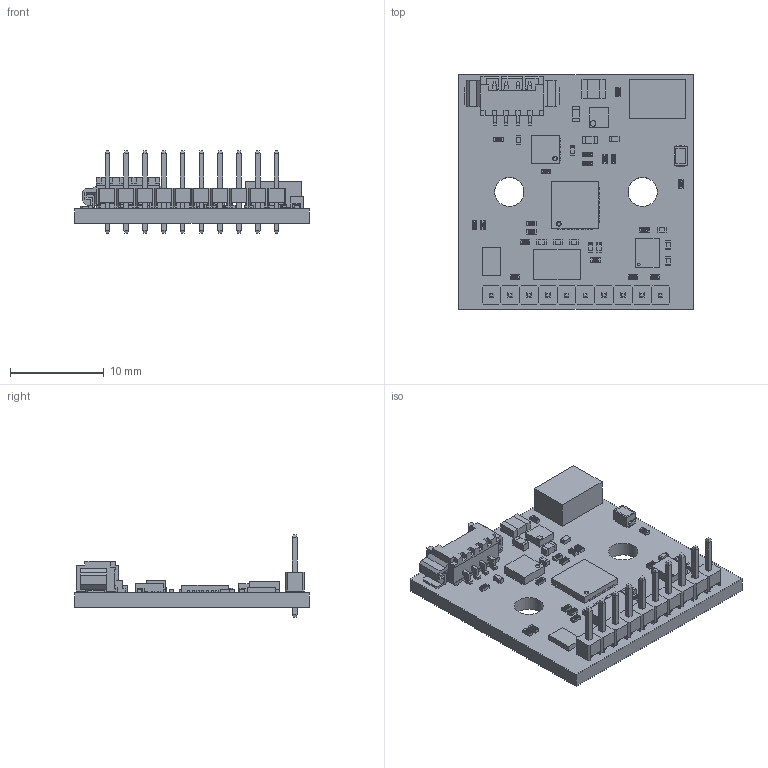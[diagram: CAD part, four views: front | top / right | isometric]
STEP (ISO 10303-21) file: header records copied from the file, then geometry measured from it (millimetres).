
FILE_DESCRIPTION(('Open CASCADE Model'),'2;1');
FILE_NAME('Open CASCADE Shape Model','2021-02-18T14:27:44',('Author'),( 'Open CASCADE'),'Open CASCADE STEP processor 6.8','Open CASCADE 6.8' ,'Unknown');
FILE_SCHEMA(('AUTOMOTIVE_DESIGN { 1 0 10303 214 1 1 1 1 }'));
Length unit declared in the file: millimetre
Products named in the file (68): PCB; Board; U4; 1347329792; U2; 1676882920; Extruded; XTAL1; 1676883056; U3; 928389488; Cylinder; 1676883328; U1; 1679715072; R32; RESC1005X04N; R31; R30; R29; R28; R27; R26; R25; R9; R8; R7; R6; R5; R4; R3; R2; R1; P4; 1676883736; P2; 532610471; C10; User_Library-SMD_CAPACITOR0402; C9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
Assembly tree (103 placements, depth 4):
  PCB
    Board
    U4
      1347329792
    U2
      1676882920
        Extruded
    XTAL1
      1676883056
        Extruded
    U3
      928389488
        Cylinder
      1676883328
        Extruded
    U1
      1679715072
    R32
      RESC1005X04N
    R31
      RESC1005X04N
    R30
      RESC1005X04N
    R29
      RESC1005X04N
    R28
      RESC1005X04N
    R27
      RESC1005X04N
    R26
      RESC1005X04N
    R25
      RESC1005X04N
    R9
      RESC1005X04N
    R8
      RESC1005X04N
    R7
      RESC1005X04N
    R6
      RESC1005X04N
    R5
      RESC1005X04N
    R4
      RESC1005X04N
    R3
      RESC1005X04N
    R2
      RESC1005X04N
    R1
      RESC1005X04N
    P4
      1676883736
        Extruded
    P2
      532610471
    C10
      User_Library-SMD_CAPACITOR0402
    C9
      User_Library-SMD_CAPACITOR0402
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Bounding box: 25 x 25 x 8.8 mm (x, y, z)
Volume: 1224.6 mm3; surface area: 2561.1 mm2
Topology: 105 solids, 105 shells, 3349 faces, 9582 edges, 6386 vertices
Faces by surface type: plane 2047, cylinder 914, bspline 288, sphere 96, torus 4
Full cylindrical faces by diameter (mm): 0.3 x1, 0.6 x1, 0.9 x10, 3.1 x2
Entity records: 38323 total; most frequent: CARTESIAN_POINT 5959, ORIENTED_EDGE 4978, DIRECTION 4884, EDGE_CURVE 2489, LINE 1984, VECTOR 1984, VERTEX_POINT 1649, AXIS2_PLACEMENT_3D 1450
